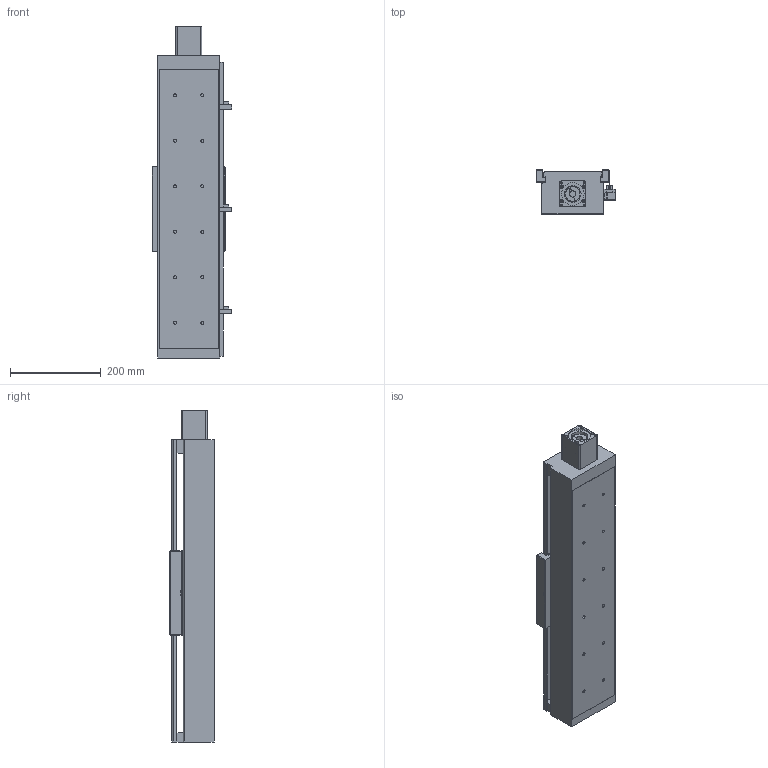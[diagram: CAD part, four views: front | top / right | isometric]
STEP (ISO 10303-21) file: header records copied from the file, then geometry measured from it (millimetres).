
FILE_DESCRIPTION((''),'2;1');
FILE_NAME('E:\libraries\UIA actuator library 2009\standard actuator\UIA136 ball screw 25\UIA136R15NDC-_ _ _-R25_ _, stp file 27Apr16\UIA136R15NDC-400-R25_ _-M60-P13-C10-S.stp','2016-04-28T16:14:30',('h029'),(''),'Autodesk Inventor 11','Autodesk Inventor 11','');
FILE_SCHEMA(('AUTOMOTIVE_DESIGN { 1 0 10303 214 1 1 1 1 }'));
Length unit declared in the file: millimetre
Products named in the file (10): UIA136R15NDC-400; UIA136R15NDC-body; motor mount F60; SOH-32C; SOH-32C-3; SOH-32C-1; SOH-32C-2; Carriage; Sensor Switch; sensor rail
Assembly tree (9 placements, depth 3):
  UIA136R15NDC-400
    UIA136R15NDC-body
    motor mount F60
    SOH-32C
      SOH-32C-3
      SOH-32C-1
      SOH-32C-2
    Carriage
    Sensor Switch
    sensor rail
Bounding box: 174.5 x 98 x 730 mm (x, y, z)
Volume: 3081077 mm3; surface area: 799729.2 mm2
Topology: 8 solids, 8 shells, 492 faces, 1307 edges, 854 vertices
Faces by surface type: plane 322, bspline 122, cylinder 44, cone 4
Full cylindrical faces by diameter (mm): 2.459 x2, 3.242 x2, 4.5 x2, 7 x4, 7.5 x2, 14 x3, 17 x1, 32 x3, 37 x1, 50.3 x1, 50.5 x1
Entity records: 16044 total; most frequent: CARTESIAN_POINT 4508, ORIENTED_EDGE 2240, DIRECTION 2194, EDGE_CURVE 1120, VECTOR 808, LINE 808, VERTEX_POINT 790, EDGE_LOOP 716
